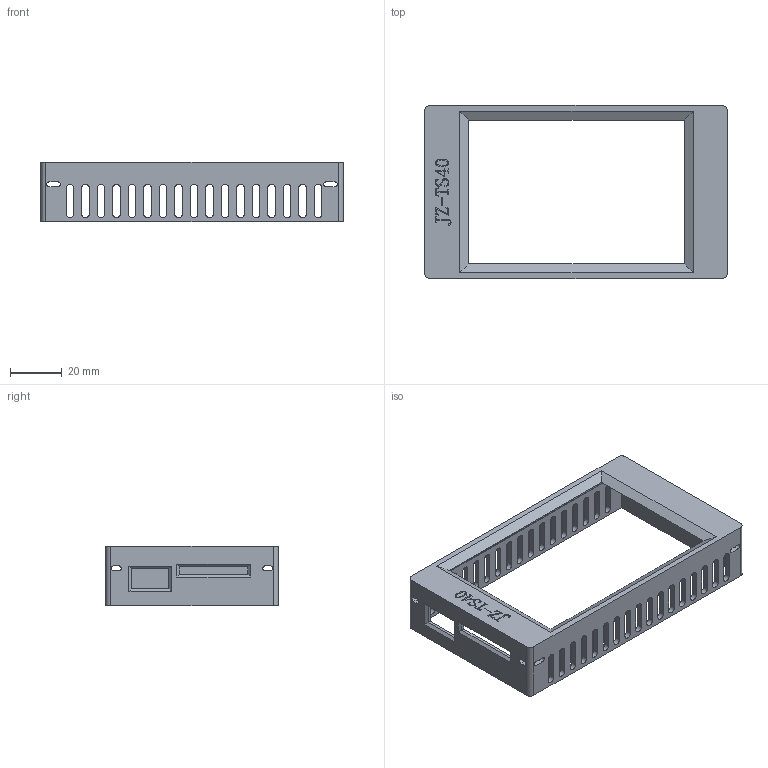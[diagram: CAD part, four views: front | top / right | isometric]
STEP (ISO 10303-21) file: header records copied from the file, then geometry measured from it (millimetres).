
FILE_DESCRIPTION (( 'STEP AP203' ), '1' );
FILE_NAME ('そ躉碟赽4.0.STEP', '2019-09-25T05:59:15', ( 'Looming' ), ( 'Microsoft' ), 'SwSTEP 2.0', 'SolidWorks 2016', '' );
FILE_SCHEMA (( 'CONFIG_CONTROL_DESIGN' ));
Length unit declared in the file: millimetre
Products named in the file (1): そ躉碟赽4.0
Bounding box: 117.02 x 67 x 23 mm (x, y, z)
Volume: 18690.3 mm3; surface area: 21886.2 mm2
Topology: 1 solids, 1 shells, 381 faces, 1087 edges, 722 vertices
Faces by surface type: plane 203, cylinder 137, bspline 41
Entity records: 14742 total; most frequent: CARTESIAN_POINT 4552, ORIENTED_EDGE 2174, DIRECTION 1961, EDGE_CURVE 1087, LINE 731, VECTOR 731, VERTEX_POINT 722, AXIS2_PLACEMENT_3D 615
